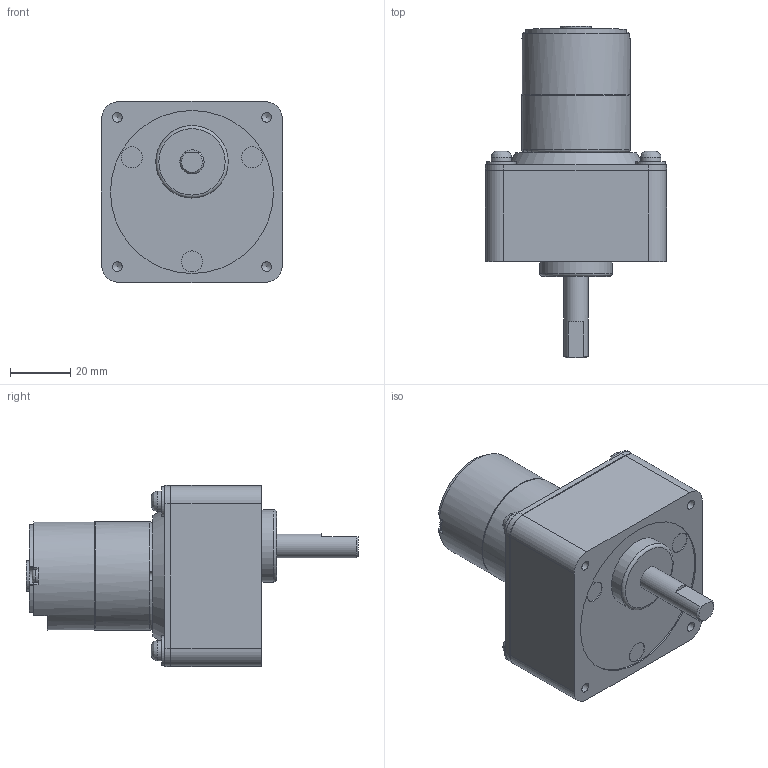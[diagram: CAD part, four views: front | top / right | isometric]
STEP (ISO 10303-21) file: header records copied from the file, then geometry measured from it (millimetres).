
FILE_DESCRIPTION((''),'2;1');
FILE_NAME('C:\Documents and Settings\SSEGAWA\デスクトップ\TP-3641A-CM-2.STP','2013-07-30T23:13:49',('SSEGAWA'),(''),'Autodesk Inventor 2010','Autodesk Inventor 2010','');
FILE_SCHEMA(('CONFIG_CONTROL_DESIGN'));
Length unit declared in the file: millimetre
Products named in the file (1): tp_3641abcde_cm_2_Shrinkwrap_1
Bounding box: 60 x 110 x 60 mm (x, y, z)
Volume: 163154.8 mm3; surface area: 22090.7 mm2
Topology: 1 solids, 8 shells, 212 faces, 497 edges, 327 vertices
Faces by surface type: plane 116, cylinder 53, bspline 37, torus 4, cone 2
Full cylindrical faces by diameter (mm): 2.5 x1, 5 x1, 6.8 x4, 7 x3, 8 x1, 9.8 x4, 10 x1, 24 x1, 35.6 x1, 36 x2, 54 x1
Entity records: 6348 total; most frequent: CARTESIAN_POINT 1702, DIRECTION 914, ORIENTED_EDGE 810, EDGE_CURVE 405, AXIS2_PLACEMENT_3D 339, EDGE_LOOP 297, VERTEX_POINT 294, VECTOR 236
